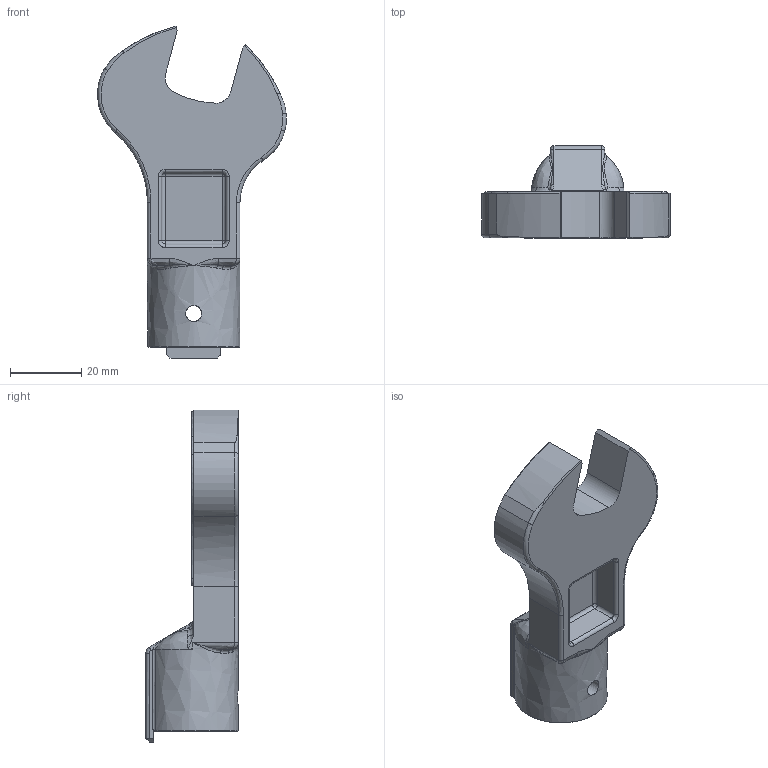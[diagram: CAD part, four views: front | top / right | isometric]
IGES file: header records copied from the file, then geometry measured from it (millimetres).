
Global section: file name: SH19DX19; native system: Autodesk Inventor 2016; preprocessor: unknown; author: Q600; date: 20151029.180255; units: millimetre
Bounding box: 53.06 x 26 x 93.3 mm (x, y, z)
Volume: 30186.5 mm3; surface area: 11335.8 mm2
Topology: 1 solids, 1 shells, 137 faces, 361 edges, 217 vertices
Faces by surface type: bspline 137
